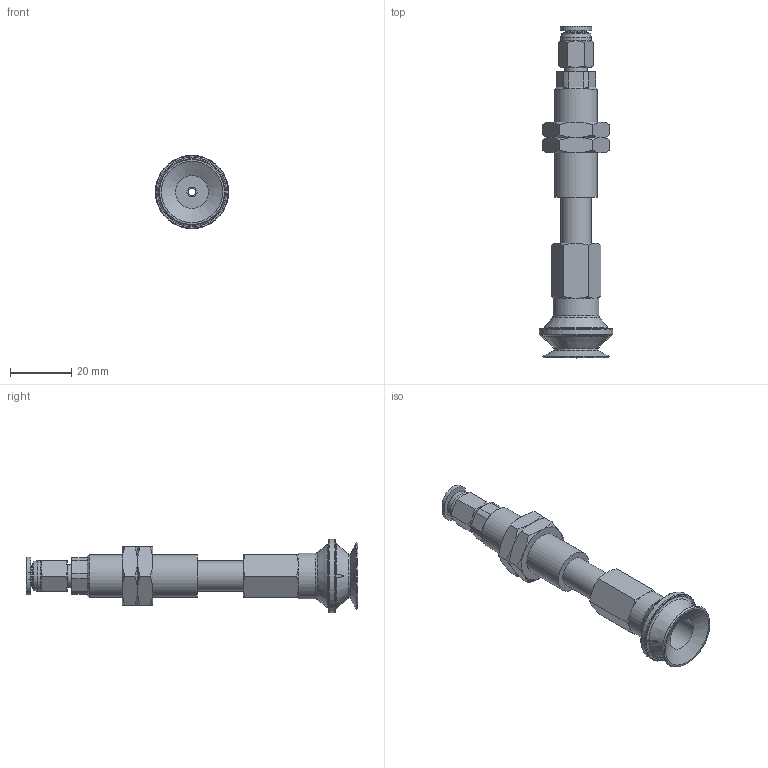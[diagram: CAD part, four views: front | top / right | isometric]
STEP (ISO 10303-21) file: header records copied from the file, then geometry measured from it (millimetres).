
FILE_DESCRIPTION(('STEP AP203'),'1');
FILE_NAME('-O.stp','2025-08-27T01:15:07',(' '),(' '),'Spatial InterOp 3D',' ',' ');
FILE_SCHEMA(('CONFIG_CONTROL_DESIGN'));
Length unit declared in the file: millimetre
Products named in the file (8): BNABPBTS-20-15-※-O; ADAPTER; NAPBTS-20-15--M; Adapter20-T-NAPB; Nut-20-S-PB; NAPBTS-20-15--F; BPBG-20-※; PC-C_06-M5
Assembly tree (8 placements, depth 2):
  BNABPBTS-20-15-※-O
    ADAPTER
    NAPBTS-20-15--M
    Adapter20-T-NAPB
    Nut-20-S-PB  x2
    NAPBTS-20-15--F
    BPBG-20-※
    PC-C_06-M5
Bounding box: 24 x 108.48 x 24 mm (x, y, z)
Volume: 15057.1 mm3; surface area: 12614.4 mm2
Topology: 7 solids, 10 shells, 190 faces, 404 edges, 246 vertices
Faces by surface type: plane 74, cone 67, cylinder 31, torus 11, bspline 4, revolution 3
Full cylindrical faces by diameter (mm): 2.5 x1, 3 x2, 4 x2, 4.134 x2, 4.6 x1, 5 x2, 7 x1, 7.4 x1, 8.2 x1, 10 x3, 10.8 x1, 11 x1, 12.917 x2, 14 x1, 15 x1, 24 x1
Entity records: 5038 total; most frequent: CARTESIAN_POINT 1365, DIRECTION 693, ORIENTED_EDGE 590, AXIS2_PLACEMENT_3D 303, EDGE_CURVE 297, EDGE_LOOP 242, VERTEX_POINT 207, FACE_OUTER_BOUND 138
